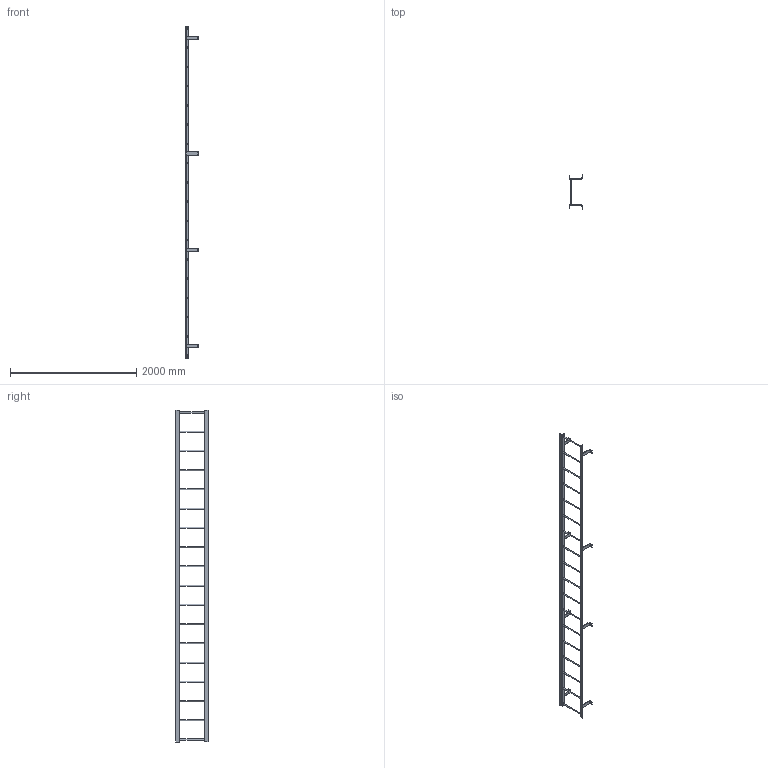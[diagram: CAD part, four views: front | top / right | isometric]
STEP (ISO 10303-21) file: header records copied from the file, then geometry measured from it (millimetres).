
FILE_DESCRIPTION(/* description */ (''),/* implementation_level */ '2;1');
FILE_NAME(/* name */ 'P:\MIKEL & KAREN\3570218 F18S SIMPLIFIED PART .stp',/* time_stamp */ '2018-07-02T15:38:29-04:00',/* author */ ('stephanie'),/* organization */ (''),/* preprocessor_version */ 'ST-DEVELOPER v16.1',/* originating_system */ 'Autodesk Inventor 2016',/* authorisation */ '');
FILE_SCHEMA (('AUTOMOTIVE_DESIGN { 1 0 10303 214 3 1 1 }'));
Length unit declared in the file: centimetre
Products named in the file (1): 3570218 F18S SIMPLIFIED PART 
Bounding box: 203.33 x 533.25 x 5257.8 mm (x, y, z)
Volume: 9081541.6 mm3; surface area: 2725372.5 mm2
Topology: 20 solids, 20 shells, 226 faces, 586 edges, 400 vertices
Faces by surface type: plane 125, cylinder 101
Full cylindrical faces by diameter (mm): 14.287 x8, 19.05 x18, 22.225 x36
Entity records: 6734 total; most frequent: DIRECTION 1152, CARTESIAN_POINT 1063, ORIENTED_EDGE 960, EDGE_CURVE 480, AXIS2_PLACEMENT_3D 445, EDGE_LOOP 376, VERTEX_POINT 356, LINE 262
